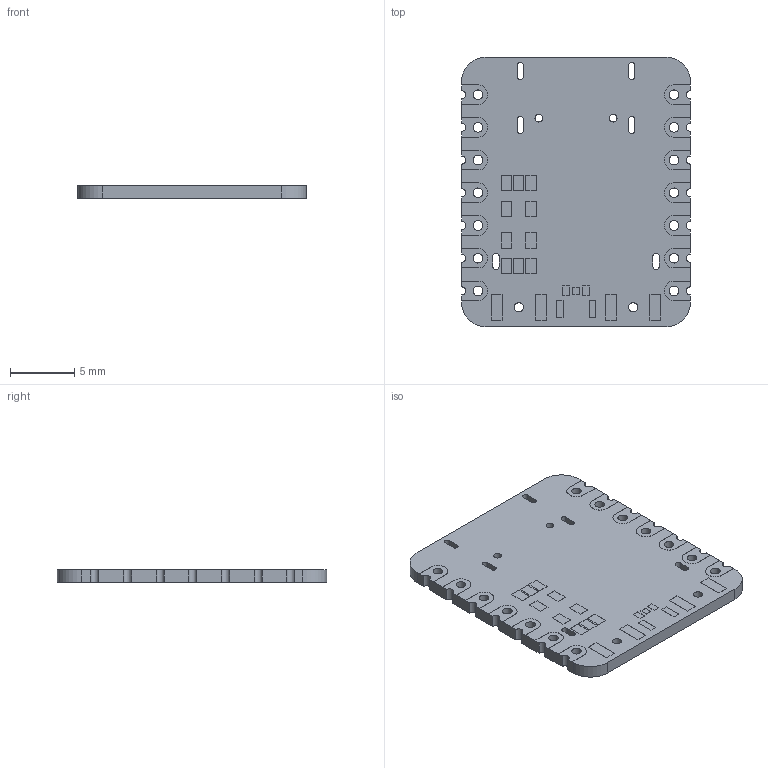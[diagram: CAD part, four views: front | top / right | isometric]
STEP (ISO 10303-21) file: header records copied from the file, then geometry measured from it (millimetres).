
FILE_DESCRIPTION(/* description */ ('STEP AP242 Edition 2','CAx-IF Rec.Pracs.---Representation and Presentation of Product Manufacturing Information (PMI)---4.0---2014-10-13','CAx-IF Rec.Pracs.---3D Tessellated Geometry---0.4---2014-09-14','2;1','CAx-IF Rec.Pracs.---User Defined Attributes---1.5---2016-08-15'),/* implementation_level */ '2;1');
FILE_NAME(/* name */ 'Assembly 1 - Seeed Studio XIAO-ESP32-C3 v15',/* time_stamp */ '2026-09-16T18:36:11Z',/* author */ (''),/* organization */ (''),/* preprocessor_version */ 'ST-DEVELOPER v20',/* originating_system */ 'ONSHAPE BY PTC INC, 1.220',/* authorisation */ ' ');
FILE_SCHEMA (('AP242_MANAGED_MODEL_BASED_3D_ENGINEERING_MIM_LF { 1 0 10303 442 3 1 4 }'));
Length unit declared in the file: centimetre
Products named in the file (1): Seeed Studio XIAO-ESP32-C3 v15
Bounding box: 17.78 x 20.95 x 1 mm (x, y, z)
Volume: 355.3 mm3; surface area: 853.6 mm2
Topology: 1 solids, 1 shells, 354 faces, 954 edges, 630 vertices
Faces by surface type: plane 264, cylinder 90
Full cylindrical faces by diameter (mm): 0.6 x2, 0.7 x2, 0.75 x14, 1.524 x6
Entity records: 11946 total; most frequent: CARTESIAN_POINT 1931, ORIENTED_EDGE 1876, DIRECTION 1834, EDGE_CURVE 938, LINE 752, VECTOR 752, VERTEX_POINT 638, AXIS2_PLACEMENT_3D 541
